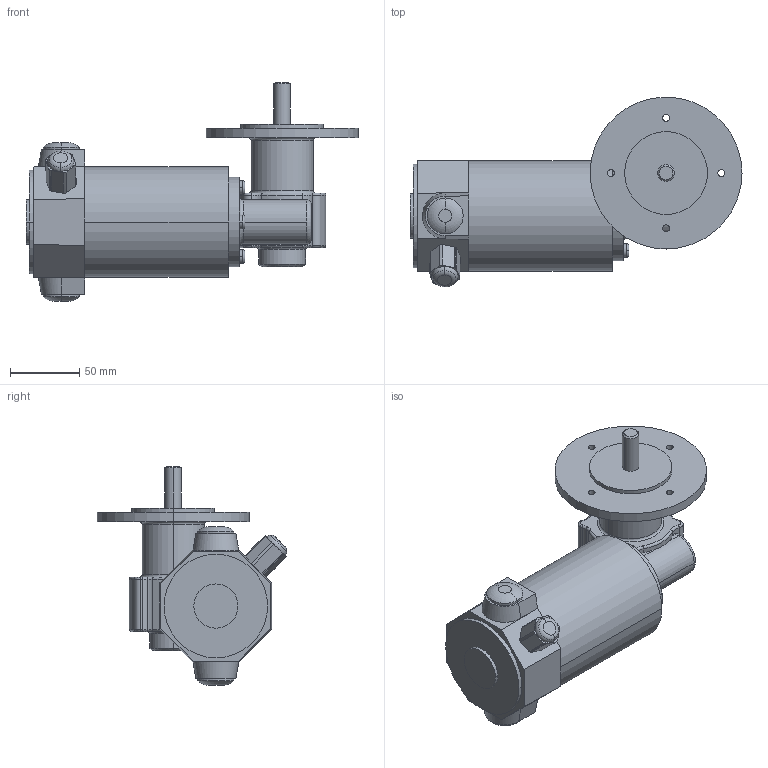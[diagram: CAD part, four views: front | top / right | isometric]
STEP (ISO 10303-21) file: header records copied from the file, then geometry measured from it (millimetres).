
FILE_DESCRIPTION(('OneSpaceDesigner STEP Export'),'2;1');
FILE_NAME('EPG12_GF125.stp','2008-07-02T13:51:03',(''),(''),'OneSpace Designer STEP processor (Jan. 2003) for AP214(CD)(Solid Model)','OneSpace Designer 12.01D 09-Jul-2004 (C) CoCreate Software GmbH','');
FILE_SCHEMA(('AUTOMOTIVE_DESIGN_CC2 {1 2 10303 214 -1 1 5 1}'));
Length unit declared in the file: millimetre
Products named in the file (2): EPG12_GF125
Assembly tree (1 placements, depth 2):
  EPG12_GF125
    EPG12_GF125
Bounding box: 240.5 x 137.39 x 158.5 mm (x, y, z)
Volume: 1111336.4 mm3; surface area: 95572.6 mm2
Topology: 1 solids, 1 shells, 212 faces, 510 edges, 316 vertices
Faces by surface type: cylinder 85, torus 74, plane 47, cone 4, bspline 2
Entity records: 8366 total; most frequent: CARTESIAN_POINT 3832, ORIENTED_EDGE 1020, DIRECTION 849, EDGE_CURVE 510, AXIS2_PLACEMENT_3D 350, VERTEX_POINT 316, EDGE_LOOP 236, CIRCLE 215
